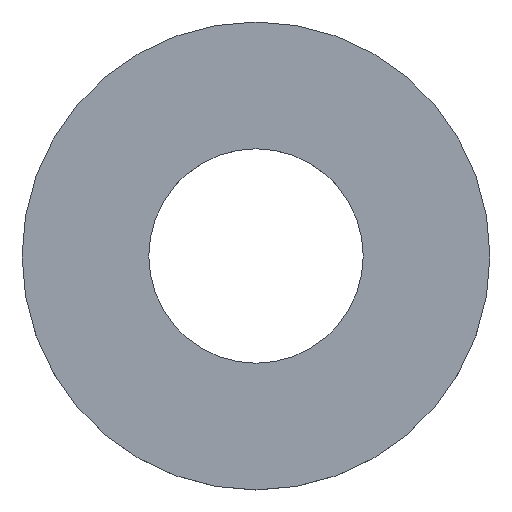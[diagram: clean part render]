
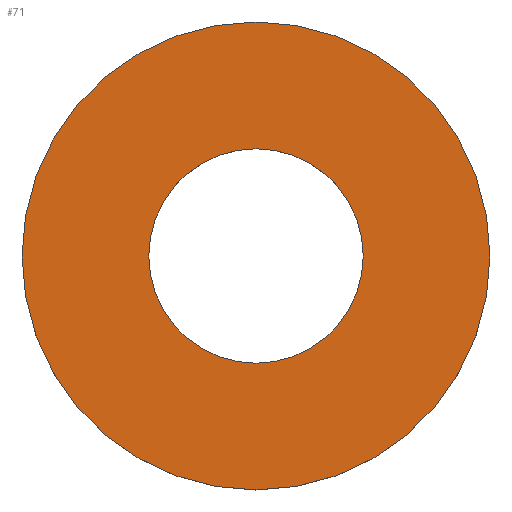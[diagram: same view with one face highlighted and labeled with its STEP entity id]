
A CAD part, top view. The second image highlights one B-rep face of the part: STEP entity #71.
In plain terms, the highlighted planar face has unit normal (0, 0, 1).
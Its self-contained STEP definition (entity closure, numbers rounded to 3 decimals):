
#1 = DIRECTION ( 'NONE',  ( 0., 0., 1. ) ) ;
#14 = DIRECTION ( 'NONE',  ( 0., 0., 1. ) ) ;
#16 = CIRCLE ( 'NONE', #139, 18. ) ;
#28 = PLANE ( 'NONE',  #127 ) ;
#35 = DIRECTION ( 'NONE',  ( 1., 0., 0. ) ) ;
#40 = FACE_BOUND ( 'NONE', #115, .T. ) ;
#47 = VERTEX_POINT ( 'NONE', #58 ) ;
#49 = VERTEX_POINT ( 'NONE', #116 ) ;
#51 = CARTESIAN_POINT ( 'NONE',  ( 0., 0., 1.25 ) ) ;
#56 = DIRECTION ( 'NONE',  ( 0., 0., 1. ) ) ;
#58 = CARTESIAN_POINT ( 'NONE',  ( -8.25, 0., 1.25 ) ) ;
#60 = CARTESIAN_POINT ( 'NONE',  ( 0., 0., 1.25 ) ) ;
#64 = CARTESIAN_POINT ( 'NONE',  ( 0., 0., 1.25 ) ) ;
#67 = CIRCLE ( 'NONE', #126, 18. ) ;
#71 = ADVANCED_FACE ( 'NONE', ( #128, #40 ), #28, .T. ) ;
#77 = DIRECTION ( 'NONE',  ( 0., 0., 1. ) ) ;
#79 = VERTEX_POINT ( 'NONE', #87 ) ;
#81 = ORIENTED_EDGE ( 'NONE', *, *, #106, .T. ) ;
#87 = CARTESIAN_POINT ( 'NONE',  ( -18., 0., 1.25 ) ) ;
#104 = CIRCLE ( 'NONE', #172, 8.25 ) ;
#106 = EDGE_CURVE ( 'NONE', #196, #79, #16, .T. ) ;
#115 = EDGE_LOOP ( 'NONE', ( #130, #228 ) ) ;
#116 = CARTESIAN_POINT ( 'NONE',  ( 8.25, 0., 1.25 ) ) ;
#117 = CARTESIAN_POINT ( 'NONE',  ( 18., 0., 1.25 ) ) ;
#125 = EDGE_CURVE ( 'NONE', #47, #49, #104, .T. ) ;
#126 = AXIS2_PLACEMENT_3D ( 'NONE', #153, #208, #35 ) ;
#127 = AXIS2_PLACEMENT_3D ( 'NONE', #51, #14, #224 ) ;
#128 = FACE_OUTER_BOUND ( 'NONE', #175, .T. ) ;
#130 = ORIENTED_EDGE ( 'NONE', *, *, #125, .F. ) ;
#135 = CARTESIAN_POINT ( 'NONE',  ( 0., 0., 1.25 ) ) ;
#139 = AXIS2_PLACEMENT_3D ( 'NONE', #135, #56, #246 ) ;
#153 = CARTESIAN_POINT ( 'NONE',  ( 0., 0., 1.25 ) ) ;
#169 = CIRCLE ( 'NONE', #182, 8.25 ) ;
#172 = AXIS2_PLACEMENT_3D ( 'NONE', #60, #77, #240 ) ;
#175 = EDGE_LOOP ( 'NONE', ( #183, #81 ) ) ;
#182 = AXIS2_PLACEMENT_3D ( 'NONE', #64, #1, #190 ) ;
#183 = ORIENTED_EDGE ( 'NONE', *, *, #229, .T. ) ;
#190 = DIRECTION ( 'NONE',  ( 1., 0., 0. ) ) ;
#196 = VERTEX_POINT ( 'NONE', #117 ) ;
#206 = EDGE_CURVE ( 'NONE', #49, #47, #169, .T. ) ;
#208 = DIRECTION ( 'NONE',  ( 0., 0., 1. ) ) ;
#224 = DIRECTION ( 'NONE',  ( 1., 0., 0. ) ) ;
#228 = ORIENTED_EDGE ( 'NONE', *, *, #206, .F. ) ;
#229 = EDGE_CURVE ( 'NONE', #79, #196, #67, .T. ) ;
#240 = DIRECTION ( 'NONE',  ( 1., 0., 0. ) ) ;
#246 = DIRECTION ( 'NONE',  ( 1., 0., 0. ) ) ;
